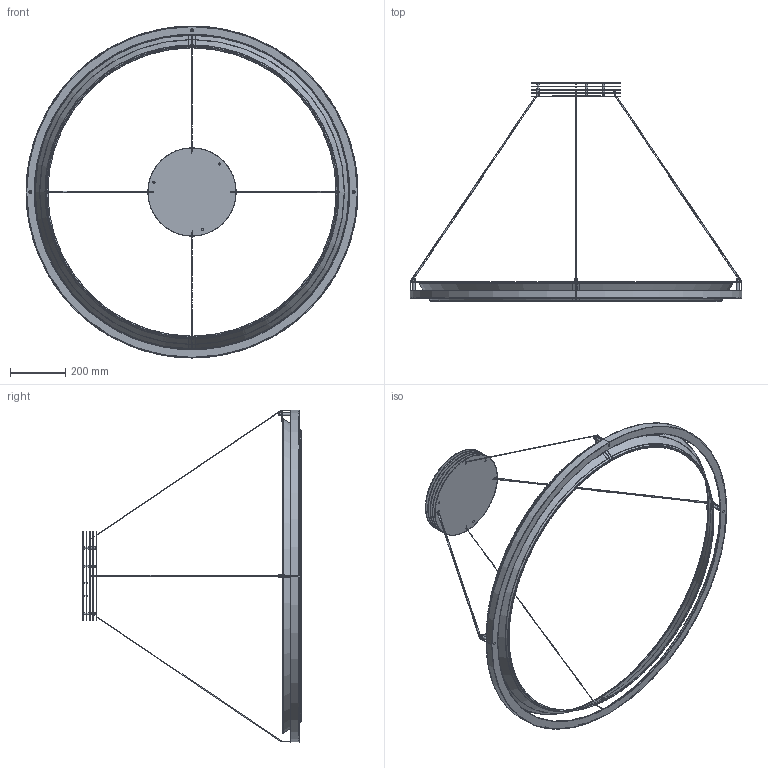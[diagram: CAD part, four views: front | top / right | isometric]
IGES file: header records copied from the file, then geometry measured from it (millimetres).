
Start section: SolidWorks IGES file using analytic representation for surfaces
Global section: file name: C:\SANTACOLE_PDM\Proyectos Catálogo\PROD-P11-003 -- NIMBA LED\6_Técnico comercial\3D\Nimba120.IGS; native system: SolidWorks 2019; preprocessor: SolidWorks 2019; author: louis.ferraz; date: 200406.123352; units: millimetre
Bounding box: 1205 x 797.66 x 1205 mm (x, y, z)
Surface area: 2191236.9 mm2 (no closed solid volume)
Topology: 0 solids, 0 shells, 548 faces, 8668 edges, 8659 vertices
Faces by surface type: revolution 290, bspline 258
